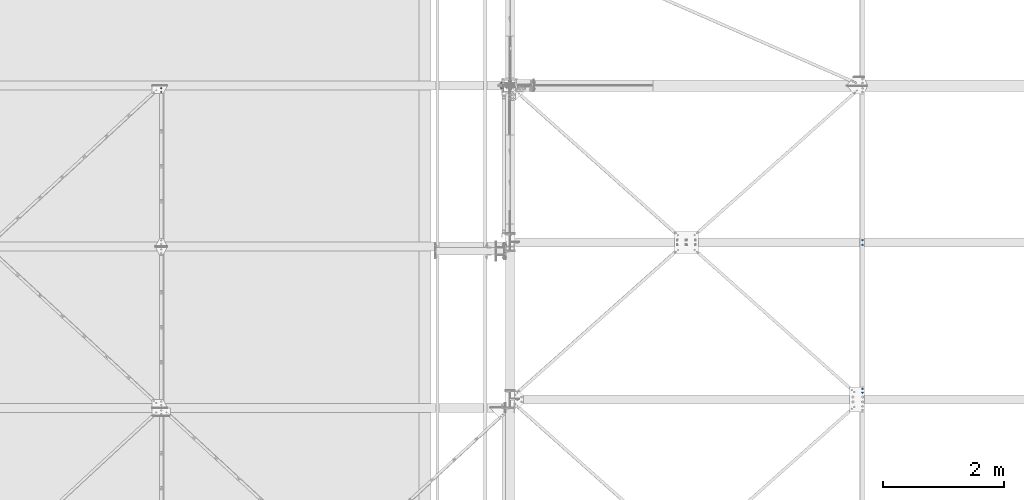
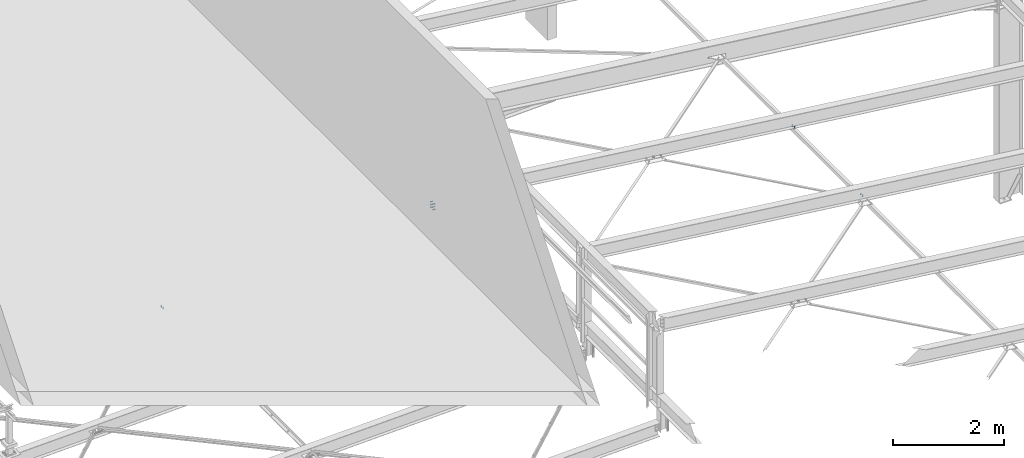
# One storey, part 201 of 3134: 5 mechanical fasteners, 5 elements without a shape of their own.
"""IFC2X3 building model written with IfcOpenShell, lengths in millimetres."""

from ifc_helpers import new_model, si_unit, frame, origin_with_axes, place, context, subcontext, project, spatial, faceted_brep, source, transform, mapped, material, type_object, element, aggregate, save


model = new_model("IFC2X3")

# Units and contexts
model_context = context("Model", 3, precision=1e-05, world=origin_with_axes())
body_context = subcontext(model_context, "Body", "Model", "MODEL_VIEW")
ifc_project = project(units=[si_unit("LENGTHUNIT", "METRE", prefix="MILLI"), si_unit("AREAUNIT", "SQUARE_METRE"), si_unit("VOLUMEUNIT", "CUBIC_METRE"), si_unit("MASSUNIT", "GRAM", prefix="KILO"), si_unit("TIMEUNIT", "SECOND"), si_unit("PLANEANGLEUNIT", "RADIAN"), si_unit("SOLIDANGLEUNIT", "STERADIAN"), si_unit("THERMODYNAMICTEMPERATUREUNIT", "DEGREE_CELSIUS"), si_unit("LUMINOUSINTENSITYUNIT", "LUMEN")], contexts=[model_context])

# Site, building, storey
site_placement = place(None, origin_with_axes())
site = spatial("IfcSite", under=ifc_project, at=site_placement, CompositionType="ELEMENT")
building_placement = place(site_placement, origin_with_axes())
building = spatial("IfcBuilding", under=site, at=building_placement, Name="Undefined", CompositionType="ELEMENT")
storey_placement = place(building_placement, origin_with_axes())
storey = spatial("IfcBuildingStorey", under=building, at=storey_placement, Name="Undefined", CompositionType="ELEMENT", Elevation=0.0)

# Assembly, mechanical fastener
assembly_1_placement = place(storey_placement, origin_with_axes())
assembly_1 = element("IfcElementAssembly", 1, at=assembly_1_placement, inside=storey, Name="PL8", AssemblyPlace="NOTDEFINED", PredefinedType="RIGID_FRAME")
ifc_material = material(Name="8.8")
mechanical_fastener_type = type_object("IfcMechanicalFastenerType", Name="Bolt assembly")
shared_shape_1 = source(origin_with_axes(), body_context, "Body", "Brep", [
    faceted_brep([(13.856406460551, -10.0, 0.0), (6.92820323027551, -10.0, 12.0), (-6.92820323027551, -10.0, 12.0), (-13.856406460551, -10.0, 1.69692038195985e-15), (-6.92820323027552, -10.0, -12.0), (6.9282032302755, -10.0, -12.0), (6.9282032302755, 0.0, -12.0), (-6.92820323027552, 0.0, -12.0), (-13.856406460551, 0.0, 1.69692038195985e-15), (-6.92820323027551, 0.0, 12.0), (6.92820323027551, 0.0, 12.0), (13.856406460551, 0.0, 0.0), (8.0, 0.0, 0.0), (6.92820323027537, 0.0, 4.00000000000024), (3.99999999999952, 0.0, 6.92820323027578), (-8.29068785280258e-13, 0.0, 8.0), (-4.00000000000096, 0.0, 6.92820323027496), (-6.9282032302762, 0.0, 3.99999999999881), (-8.0, 0.0, -1.65813757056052e-12), (-6.92820323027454, 0.0, -4.00000000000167), (-3.99999999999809, 0.0, -6.92820323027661), (2.47832457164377e-12, 0.0, -8.0), (4.00000000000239, 0.0, -6.92820323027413), (6.92820323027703, 0.0, -3.99999999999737), (6.92820323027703, 35.0000000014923, -3.99999999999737), (4.00000000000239, 35.0000000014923, -6.92820323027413), (2.47832457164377e-12, 35.0000000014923, -8.0), (-3.99999999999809, 35.0000000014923, -6.92820323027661), (-6.92820323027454, 35.0000000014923, -4.00000000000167), (-8.0, 35.0000000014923, -1.65813757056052e-12), (-6.9282032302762, 35.0000000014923, 3.99999999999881), (-4.00000000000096, 35.0000000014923, 6.92820323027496), (-8.29068785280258e-13, 35.0000000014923, 8.0), (3.99999999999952, 35.0000000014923, 6.92820323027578), (6.92820323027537, 35.0000000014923, 4.00000000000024), (8.0, 35.0000000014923, 0.0), (13.856406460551, 14.9990000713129, 0.0), (6.92820323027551, 14.9990000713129, 12.0), (-6.92820323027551, 14.9990000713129, 12.0), (-13.856406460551, 14.9990000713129, 1.69692038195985e-15), (-6.92820323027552, 14.9990000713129, -12.0), (6.9282032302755, 14.9990000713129, -12.0), (6.9282032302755, 27.9990000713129, -12.0), (-6.92820323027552, 27.9990000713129, -12.0), (-13.856406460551, 27.9990000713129, 1.69692038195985e-15), (-6.92820323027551, 27.9990000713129, 12.0), (6.92820323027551, 27.9990000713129, 12.0), (13.856406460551, 27.9990000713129, 0.0)], [[[0, 1, 2, 3, 4, 5]], [[6, 7, 8, 9, 10, 11]], [[0, 11, 10, 1]], [[1, 10, 9, 2]], [[2, 9, 8, 3]], [[3, 8, 7, 4]], [[4, 7, 6, 5]], [[5, 6, 11, 0]], [[12, 13, 14, 15, 16, 17, 18, 19, 20, 21, 22, 23]], [[24, 25, 26, 27, 28, 29, 30, 31, 32, 33, 34, 35]], [[12, 35, 34, 13]], [[13, 34, 33, 14]], [[14, 33, 32, 15]], [[15, 32, 31, 16]], [[16, 31, 30, 17]], [[17, 30, 29, 18]], [[18, 29, 28, 19]], [[19, 28, 27, 20]], [[20, 27, 26, 21]], [[21, 26, 25, 22]], [[22, 25, 24, 23]], [[23, 24, 35, 12]], [[36, 37, 38, 39, 40, 41]], [[42, 43, 44, 45, 46, 47]], [[36, 47, 46, 37]], [[37, 46, 45, 38]], [[38, 45, 44, 39]], [[39, 44, 43, 40]], [[40, 43, 42, 41]], [[41, 42, 47, 36]]]),
    faceted_brep([(9.0, 7.89900007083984, 0.0), (7.79422863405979, 7.89900007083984, 4.50000000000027), (4.49999999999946, 7.89900007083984, 7.79422863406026), (-9.3270238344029e-13, 7.89900007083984, 9.0), (-4.50000000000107, 7.89900007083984, 7.79422863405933), (-7.79422863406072, 7.89900007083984, 4.49999999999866), (-9.0, 7.89900007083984, -1.86540476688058e-12), (-7.79422863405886, 7.89900007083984, -4.50000000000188), (-4.49999999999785, 7.89900007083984, -7.79422863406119), (2.78811514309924e-12, 7.89900007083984, -9.0), (4.50000000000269, 7.89900007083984, -7.7942286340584), (7.79422863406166, 7.89900007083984, -4.49999999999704), (7.79422863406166, 14.9990000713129, -4.49999999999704), (4.50000000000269, 14.9990000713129, -7.7942286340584), (2.78811514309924e-12, 14.9990000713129, -9.0), (-4.49999999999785, 14.9990000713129, -7.79422863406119), (-7.79422863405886, 14.9990000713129, -4.50000000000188), (-9.0, 14.9990000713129, -1.86540476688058e-12), (-7.79422863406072, 14.9990000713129, 4.49999999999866), (-4.50000000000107, 14.9990000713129, 7.79422863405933), (-9.3270238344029e-13, 14.9990000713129, 9.0), (4.49999999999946, 14.9990000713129, 7.79422863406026), (7.79422863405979, 14.9990000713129, 4.50000000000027), (9.0, 14.9990000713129, 0.0), (9.0, 0.100000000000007, 0.0), (7.79422863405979, 0.100000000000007, 4.50000000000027), (4.49999999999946, 0.100000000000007, 7.79422863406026), (-9.3270238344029e-13, 0.100000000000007, 9.0), (-4.50000000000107, 0.100000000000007, 7.79422863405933), (-7.79422863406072, 0.100000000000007, 4.49999999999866), (-9.0, 0.100000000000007, -1.86540476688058e-12), (-7.79422863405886, 0.100000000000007, -4.50000000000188), (-4.49999999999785, 0.100000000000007, -7.79422863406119), (2.78811514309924e-12, 0.100000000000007, -9.0), (4.50000000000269, 0.100000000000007, -7.7942286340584), (7.79422863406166, 0.100000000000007, -4.49999999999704), (7.79422863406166, 8.1, -4.49999999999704), (4.50000000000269, 8.1, -7.7942286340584), (2.78811514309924e-12, 8.1, -9.0), (-4.49999999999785, 8.1, -7.79422863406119), (-7.79422863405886, 8.1, -4.50000000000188), (-9.0, 8.1, -1.86540476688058e-12), (-7.79422863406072, 8.1, 4.49999999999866), (-4.50000000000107, 8.1, 7.79422863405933), (-9.3270238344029e-13, 8.1, 9.0), (4.49999999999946, 8.1, 7.79422863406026), (7.79422863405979, 8.1, 4.50000000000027), (9.0, 8.1, 0.0)], [[[0, 1, 2, 3, 4, 5, 6, 7, 8, 9, 10, 11]], [[12, 13, 14, 15, 16, 17, 18, 19, 20, 21, 22, 23]], [[0, 23, 22, 1]], [[1, 22, 21, 2]], [[2, 21, 20, 3]], [[3, 20, 19, 4]], [[4, 19, 18, 5]], [[5, 18, 17, 6]], [[6, 17, 16, 7]], [[7, 16, 15, 8]], [[8, 15, 14, 9]], [[9, 14, 13, 10]], [[10, 13, 12, 11]], [[11, 12, 23, 0]], [[24, 25, 26, 27, 28, 29, 30, 31, 32, 33, 34, 35]], [[36, 37, 38, 39, 40, 41, 42, 43, 44, 45, 46, 47]], [[24, 47, 46, 25]], [[25, 46, 45, 26]], [[26, 45, 44, 27]], [[27, 44, 43, 28]], [[28, 43, 42, 29]], [[29, 42, 41, 30]], [[30, 41, 40, 31]], [[31, 40, 39, 32]], [[32, 39, 38, 33]], [[33, 38, 37, 34]], [[34, 37, 36, 35]], [[35, 36, 47, 24]]]),
])
mechanical_fastener_1_placement = place(assembly_1_placement, frame((26687.9849612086, 35225.0, 4806.73358922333), z_axis=(0.992623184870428, 0.0, -0.121240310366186), x_axis=(0.0, -1.0, 0.0)))
mechanical_fastener_1 = element("IfcMechanicalFastener", 2, at=mechanical_fastener_1_placement, type_object=mechanical_fastener_type, material=ifc_material, Name="Bolt assembly", NominalDiameter=16.0, NominalLength=35.0, context=body_context, shape_type="MappedRepresentation", body=[
    mapped(shared_shape_1, transform((0.0, 0.0, 0.0))),
    mapped(shared_shape_1, transform((59.9999999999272, 0.0, 5.40239852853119e-10))),
])
aggregate(assembly_1, [mechanical_fastener_1])

assembly_2_placement = place(storey_placement, origin_with_axes())
assembly_2 = element("IfcElementAssembly", 3, at=assembly_2_placement, inside=storey, AssemblyPlace="NOTDEFINED", PredefinedType="RIGID_FRAME")
shared_shape_2 = source(origin_with_axes(), body_context, "Body", "Brep", [
    faceted_brep([(13.856406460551, -19.199990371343, 0.0), (6.92820323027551, -19.199990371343, 12.0), (-6.92820323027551, -19.199990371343, 12.0), (-13.856406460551, -19.199990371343, 1.69692038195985e-15), (-6.92820323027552, -19.199990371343, -12.0), (6.9282032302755, -19.199990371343, -12.0), (6.9282032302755, -9.19999037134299, -12.0), (-6.92820323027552, -9.19999037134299, -12.0), (-13.856406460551, -9.19999037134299, 1.69692038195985e-15), (-6.92820323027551, -9.19999037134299, 12.0), (6.92820323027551, -9.19999037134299, 12.0), (13.856406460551, -9.19999037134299, 0.0), (8.0, -9.19999037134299, 0.0), (6.92820323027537, -9.19999037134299, 4.00000000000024), (3.99999999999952, -9.19999037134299, 6.92820323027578), (-8.29068785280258e-13, -9.19999037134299, 8.0), (-4.00000000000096, -9.19999037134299, 6.92820323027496), (-6.9282032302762, -9.19999037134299, 3.99999999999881), (-8.0, -9.19999037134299, -1.65813757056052e-12), (-6.92820323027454, -9.19999037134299, -4.00000000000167), (-3.99999999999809, -9.19999037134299, -6.92820323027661), (2.47832457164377e-12, -9.19999037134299, -8.0), (4.00000000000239, -9.19999037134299, -6.92820323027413), (6.92820323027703, -9.19999037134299, -3.99999999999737), (6.92820323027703, 35.8000002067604, -3.99999999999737), (4.00000000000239, 35.8000002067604, -6.92820323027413), (2.47832457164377e-12, 35.8000002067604, -8.0), (-3.99999999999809, 35.8000002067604, -6.92820323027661), (-6.92820323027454, 35.8000002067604, -4.00000000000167), (-8.0, 35.8000002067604, -1.65813757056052e-12), (-6.9282032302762, 35.8000002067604, 3.99999999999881), (-4.00000000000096, 35.8000002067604, 6.92820323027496), (-8.29068785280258e-13, 35.8000002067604, 8.0), (3.99999999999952, 35.8000002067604, 6.92820323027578), (6.92820323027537, 35.8000002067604, 4.00000000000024), (8.0, 35.8000002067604, 0.0), (13.856406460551, 14.9990000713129, 0.0), (6.92820323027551, 14.9990000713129, 12.0), (-6.92820323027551, 14.9990000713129, 12.0), (-13.856406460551, 14.9990000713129, 1.69692038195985e-15), (-6.92820323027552, 14.9990000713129, -12.0), (6.9282032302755, 14.9990000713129, -12.0), (6.9282032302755, 27.9990000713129, -12.0), (-6.92820323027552, 27.9990000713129, -12.0), (-13.856406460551, 27.9990000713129, 1.69692038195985e-15), (-6.92820323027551, 27.9990000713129, 12.0), (6.92820323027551, 27.9990000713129, 12.0), (13.856406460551, 27.9990000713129, 0.0)], [[[0, 1, 2, 3, 4, 5]], [[6, 7, 8, 9, 10, 11]], [[0, 11, 10, 1]], [[1, 10, 9, 2]], [[2, 9, 8, 3]], [[3, 8, 7, 4]], [[4, 7, 6, 5]], [[5, 6, 11, 0]], [[12, 13, 14, 15, 16, 17, 18, 19, 20, 21, 22, 23]], [[24, 25, 26, 27, 28, 29, 30, 31, 32, 33, 34, 35]], [[12, 35, 34, 13]], [[13, 34, 33, 14]], [[14, 33, 32, 15]], [[15, 32, 31, 16]], [[16, 31, 30, 17]], [[17, 30, 29, 18]], [[18, 29, 28, 19]], [[19, 28, 27, 20]], [[20, 27, 26, 21]], [[21, 26, 25, 22]], [[22, 25, 24, 23]], [[23, 24, 35, 12]], [[36, 37, 38, 39, 40, 41]], [[42, 43, 44, 45, 46, 47]], [[36, 47, 46, 37]], [[37, 46, 45, 38]], [[38, 45, 44, 39]], [[39, 44, 43, 40]], [[40, 43, 42, 41]], [[41, 42, 47, 36]]]),
    faceted_brep([(9.0, -9.09999037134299, 0.0), (7.79422863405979, -9.09999037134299, 4.50000000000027), (4.49999999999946, -9.09999037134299, 7.79422863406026), (-9.3270238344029e-13, -9.09999037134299, 9.0), (-4.50000000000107, -9.09999037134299, 7.79422863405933), (-7.79422863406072, -9.09999037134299, 4.49999999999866), (-9.0, -9.09999037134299, -1.86540476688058e-12), (-7.79422863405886, -9.09999037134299, -4.50000000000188), (-4.49999999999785, -9.09999037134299, -7.79422863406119), (2.78811514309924e-12, -9.09999037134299, -9.0), (4.50000000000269, -9.09999037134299, -7.7942286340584), (7.79422863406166, -9.09999037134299, -4.49999999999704), (7.79422863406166, 0.100000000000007, -4.49999999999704), (4.50000000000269, 0.100000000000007, -7.7942286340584), (2.78811514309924e-12, 0.100000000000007, -9.0), (-4.49999999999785, 0.100000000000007, -7.79422863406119), (-7.79422863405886, 0.100000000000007, -4.50000000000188), (-9.0, 0.100000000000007, -1.86540476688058e-12), (-7.79422863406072, 0.100000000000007, 4.49999999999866), (-4.50000000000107, 0.100000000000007, 7.79422863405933), (-9.3270238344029e-13, 0.100000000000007, 9.0), (4.49999999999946, 0.100000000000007, 7.79422863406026), (7.79422863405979, 0.100000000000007, 4.50000000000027), (9.0, 0.100000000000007, 0.0), (9.0, 7.89900007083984, 0.0), (7.79422863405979, 7.89900007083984, 4.50000000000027), (4.49999999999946, 7.89900007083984, 7.79422863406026), (-9.3270238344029e-13, 7.89900007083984, 9.0), (-4.50000000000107, 7.89900007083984, 7.79422863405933), (-7.79422863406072, 7.89900007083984, 4.49999999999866), (-9.0, 7.89900007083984, -1.86540476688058e-12), (-7.79422863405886, 7.89900007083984, -4.50000000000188), (-4.49999999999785, 7.89900007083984, -7.79422863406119), (2.78811514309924e-12, 7.89900007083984, -9.0), (4.50000000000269, 7.89900007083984, -7.7942286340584), (7.79422863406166, 7.89900007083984, -4.49999999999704), (7.79422863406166, 14.9990000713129, -4.49999999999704), (4.50000000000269, 14.9990000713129, -7.7942286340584), (2.78811514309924e-12, 14.9990000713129, -9.0), (-4.49999999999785, 14.9990000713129, -7.79422863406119), (-7.79422863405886, 14.9990000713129, -4.50000000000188), (-9.0, 14.9990000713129, -1.86540476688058e-12), (-7.79422863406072, 14.9990000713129, 4.49999999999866), (-4.50000000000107, 14.9990000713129, 7.79422863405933), (-9.3270238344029e-13, 14.9990000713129, 9.0), (4.49999999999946, 14.9990000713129, 7.79422863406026), (7.79422863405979, 14.9990000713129, 4.50000000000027), (9.0, 14.9990000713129, 0.0)], [[[0, 1, 2, 3, 4, 5, 6, 7, 8, 9, 10, 11]], [[12, 13, 14, 15, 16, 17, 18, 19, 20, 21, 22, 23]], [[0, 23, 22, 1]], [[1, 22, 21, 2]], [[2, 21, 20, 3]], [[3, 20, 19, 4]], [[4, 19, 18, 5]], [[5, 18, 17, 6]], [[6, 17, 16, 7]], [[7, 16, 15, 8]], [[8, 15, 14, 9]], [[9, 14, 13, 10]], [[10, 13, 12, 11]], [[11, 12, 23, 0]], [[24, 25, 26, 27, 28, 29, 30, 31, 32, 33, 34, 35]], [[36, 37, 38, 39, 40, 41, 42, 43, 44, 45, 46, 47]], [[24, 47, 46, 25]], [[25, 46, 45, 26]], [[26, 45, 44, 27]], [[27, 44, 43, 28]], [[28, 43, 42, 29]], [[29, 42, 41, 30]], [[30, 41, 40, 31]], [[31, 40, 39, 32]], [[32, 39, 38, 33]], [[33, 38, 37, 34]], [[34, 37, 36, 35]], [[35, 36, 47, 24]]]),
])
mechanical_fastener_2_placement = place(assembly_2_placement, frame((26687.9849612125, 37612.0, 4806.73358922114), z_axis=(-0.992623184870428, 0.0, 0.121240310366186), x_axis=(0.0, 1.0, 0.0)))
mechanical_fastener_2 = element("IfcMechanicalFastener", 4, at=mechanical_fastener_2_placement, type_object=mechanical_fastener_type, material=ifc_material, Name="Bolt assembly", NominalDiameter=16.0, NominalLength=45.0, context=body_context, shape_type="MappedRepresentation", body=[
    mapped(shared_shape_2, transform((0.0, 0.0, 0.0))),
    mapped(shared_shape_2, transform((76.0, 0.0, 0.0))),
])
aggregate(assembly_2, [mechanical_fastener_2])

assembly_3_placement = place(storey_placement, origin_with_axes())
assembly_3 = element("IfcElementAssembly", 5, at=assembly_3_placement, inside=storey, Name="300", AssemblyPlace="NOTDEFINED", PredefinedType="RIGID_FRAME")
shared_shape_3 = source(origin_with_axes(), body_context, "Body", "Brep", [
    faceted_brep([(13.856406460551, -21.0000017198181, 0.0), (6.92820323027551, -21.0000017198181, 12.0), (-6.92820323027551, -21.0000017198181, 12.0), (-13.856406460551, -21.0000017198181, 1.69692038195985e-15), (-6.92820323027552, -21.0000017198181, -12.0), (6.9282032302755, -21.0000017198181, -12.0), (6.9282032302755, -11.0000017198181, -12.0), (-6.92820323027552, -11.0000017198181, -12.0), (-13.856406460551, -11.0000017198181, 1.69692038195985e-15), (-6.92820323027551, -11.0000017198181, 12.0), (6.92820323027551, -11.0000017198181, 12.0), (13.856406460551, -11.0000017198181, 0.0), (8.0, -11.0000017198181, 0.0), (6.92820323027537, -11.0000017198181, 4.00000000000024), (3.99999999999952, -11.0000017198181, 6.92820323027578), (-8.29068785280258e-13, -11.0000017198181, 8.0), (-4.00000000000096, -11.0000017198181, 6.92820323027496), (-6.9282032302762, -11.0000017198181, 3.99999999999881), (-8.0, -11.0000017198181, -1.65813757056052e-12), (-6.92820323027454, -11.0000017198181, -4.00000000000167), (-3.99999999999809, -11.0000017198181, -6.92820323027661), (2.47832457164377e-12, -11.0000017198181, -8.0), (4.00000000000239, -11.0000017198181, -6.92820323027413), (6.92820323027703, -11.0000017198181, -3.99999999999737), (6.92820323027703, 29.0, -3.99999999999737), (4.00000000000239, 29.0, -6.92820323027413), (2.47832457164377e-12, 29.0, -8.0), (-3.99999999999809, 29.0, -6.92820323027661), (-6.92820323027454, 29.0, -4.00000000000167), (-8.0, 29.0, -1.65813757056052e-12), (-6.9282032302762, 29.0, 3.99999999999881), (-4.00000000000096, 29.0, 6.92820323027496), (-8.29068785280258e-13, 29.0, 8.0), (3.99999999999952, 29.0, 6.92820323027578), (6.92820323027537, 29.0, 4.00000000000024), (8.0, 29.0, 0.0), (13.856406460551, 10.9999982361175, 0.0), (6.92820323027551, 10.9999982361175, 12.0), (-6.92820323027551, 10.9999982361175, 12.0), (-13.856406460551, 10.9999982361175, 1.69692038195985e-15), (-6.92820323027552, 10.9999982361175, -12.0), (6.9282032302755, 10.9999982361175, -12.0), (6.9282032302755, 23.9999999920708, -12.0), (-6.92820323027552, 23.9999999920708, -12.0), (-13.856406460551, 23.9999999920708, 1.69692038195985e-15), (-6.92820323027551, 23.9999999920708, 12.0), (6.92820323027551, 23.9999999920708, 12.0), (13.856406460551, 23.9999999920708, 0.0)], [[[0, 1, 2, 3, 4, 5]], [[6, 7, 8, 9, 10, 11]], [[0, 11, 10, 1]], [[1, 10, 9, 2]], [[2, 9, 8, 3]], [[3, 8, 7, 4]], [[4, 7, 6, 5]], [[5, 6, 11, 0]], [[12, 13, 14, 15, 16, 17, 18, 19, 20, 21, 22, 23]], [[24, 25, 26, 27, 28, 29, 30, 31, 32, 33, 34, 35]], [[12, 35, 34, 13]], [[13, 34, 33, 14]], [[14, 33, 32, 15]], [[15, 32, 31, 16]], [[16, 31, 30, 17]], [[17, 30, 29, 18]], [[18, 29, 28, 19]], [[19, 28, 27, 20]], [[20, 27, 26, 21]], [[21, 26, 25, 22]], [[22, 25, 24, 23]], [[23, 24, 35, 12]], [[36, 37, 38, 39, 40, 41]], [[42, 43, 44, 45, 46, 47]], [[36, 47, 46, 37]], [[37, 46, 45, 38]], [[38, 45, 44, 39]], [[39, 44, 43, 40]], [[40, 43, 42, 41]], [[41, 42, 47, 36]]]),
    faceted_brep([(9.0, -10.9000017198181, 0.0), (7.79422863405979, -10.9000017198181, 4.50000000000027), (4.49999999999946, -10.9000017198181, 7.79422863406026), (-9.3270238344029e-13, -10.9000017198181, 9.0), (-4.50000000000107, -10.9000017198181, 7.79422863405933), (-7.79422863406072, -10.9000017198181, 4.49999999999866), (-9.0, -10.9000017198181, -1.86540476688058e-12), (-7.79422863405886, -10.9000017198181, -4.50000000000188), (-4.49999999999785, -10.9000017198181, -7.79422863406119), (2.78811514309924e-12, -10.9000017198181, -9.0), (4.50000000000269, -10.9000017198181, -7.7942286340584), (7.79422863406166, -10.9000017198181, -4.49999999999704), (7.79422863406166, -3.9, -4.49999999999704), (4.50000000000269, -3.9, -7.7942286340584), (2.78811514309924e-12, -3.9, -9.0), (-4.49999999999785, -3.9, -7.79422863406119), (-7.79422863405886, -3.9, -4.50000000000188), (-9.0, -3.9, -1.86540476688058e-12), (-7.79422863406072, -3.9, 4.49999999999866), (-4.50000000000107, -3.9, 7.79422863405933), (-9.3270238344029e-13, -3.9, 9.0), (4.49999999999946, -3.9, 7.79422863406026), (7.79422863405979, -3.9, 4.50000000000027), (9.0, -3.9, 0.0), (9.0, -3.99999624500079, 0.0), (7.79422863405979, -3.99999624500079, 4.50000000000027), (4.49999999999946, -3.99999624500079, 7.79422863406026), (-9.3270238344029e-13, -3.99999624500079, 9.0), (-4.50000000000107, -3.99999624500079, 7.79422863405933), (-7.79422863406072, -3.99999624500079, 4.49999999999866), (-9.0, -3.99999624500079, -1.86540476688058e-12), (-7.79422863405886, -3.99999624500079, -4.50000000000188), (-4.49999999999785, -3.99999624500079, -7.79422863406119), (2.78811514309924e-12, -3.99999624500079, -9.0), (4.50000000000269, -3.99999624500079, -7.7942286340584), (7.79422863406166, -3.99999624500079, -4.49999999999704), (7.79422863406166, 4.00000375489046, -4.49999999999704), (4.50000000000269, 4.00000375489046, -7.7942286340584), (2.78811514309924e-12, 4.00000375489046, -9.0), (-4.49999999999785, 4.00000375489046, -7.79422863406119), (-7.79422863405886, 4.00000375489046, -4.50000000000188), (-9.0, 4.00000375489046, -1.86540476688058e-12), (-7.79422863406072, 4.00000375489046, 4.49999999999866), (-4.50000000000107, 4.00000375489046, 7.79422863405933), (-9.3270238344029e-13, 4.00000375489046, 9.0), (4.49999999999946, 4.00000375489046, 7.79422863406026), (7.79422863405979, 4.00000375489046, 4.50000000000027), (9.0, 4.00000375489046, 0.0), (9.0, 3.9, 0.0), (7.79422863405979, 3.9, 4.50000000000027), (4.49999999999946, 3.9, 7.79422863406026), (-9.3270238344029e-13, 3.9, 9.0), (-4.50000000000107, 3.9, 7.79422863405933), (-7.79422863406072, 3.9, 4.49999999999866), (-9.0, 3.9, -1.86540476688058e-12), (-7.79422863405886, 3.9, -4.50000000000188), (-4.49999999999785, 3.9, -7.79422863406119), (2.78811514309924e-12, 3.9, -9.0), (4.50000000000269, 3.9, -7.7942286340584), (7.79422863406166, 3.9, -4.49999999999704), (7.79422863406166, 10.9999982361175, -4.49999999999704), (4.50000000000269, 10.9999982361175, -7.7942286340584), (2.78811514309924e-12, 10.9999982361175, -9.0), (-4.49999999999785, 10.9999982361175, -7.79422863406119), (-7.79422863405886, 10.9999982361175, -4.50000000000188), (-9.0, 10.9999982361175, -1.86540476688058e-12), (-7.79422863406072, 10.9999982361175, 4.49999999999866), (-4.50000000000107, 10.9999982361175, 7.79422863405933), (-9.3270238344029e-13, 10.9999982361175, 9.0), (4.49999999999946, 10.9999982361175, 7.79422863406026), (7.79422863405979, 10.9999982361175, 4.50000000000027), (9.0, 10.9999982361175, 0.0)], [[[0, 1, 2, 3, 4, 5, 6, 7, 8, 9, 10, 11]], [[12, 13, 14, 15, 16, 17, 18, 19, 20, 21, 22, 23]], [[0, 23, 22, 1]], [[1, 22, 21, 2]], [[2, 21, 20, 3]], [[3, 20, 19, 4]], [[4, 19, 18, 5]], [[5, 18, 17, 6]], [[6, 17, 16, 7]], [[7, 16, 15, 8]], [[8, 15, 14, 9]], [[9, 14, 13, 10]], [[10, 13, 12, 11]], [[11, 12, 23, 0]], [[24, 25, 26, 27, 28, 29, 30, 31, 32, 33, 34, 35]], [[36, 37, 38, 39, 40, 41, 42, 43, 44, 45, 46, 47]], [[24, 47, 46, 25]], [[25, 46, 45, 26]], [[26, 45, 44, 27]], [[27, 44, 43, 28]], [[28, 43, 42, 29]], [[29, 42, 41, 30]], [[30, 41, 40, 31]], [[31, 40, 39, 32]], [[32, 39, 38, 33]], [[33, 38, 37, 34]], [[34, 37, 36, 35]], [[35, 36, 47, 24]], [[48, 49, 50, 51, 52, 53, 54, 55, 56, 57, 58, 59]], [[60, 61, 62, 63, 64, 65, 66, 67, 68, 69, 70, 71]], [[48, 71, 70, 49]], [[49, 70, 69, 50]], [[50, 69, 68, 51]], [[51, 68, 67, 52]], [[52, 67, 66, 53]], [[53, 66, 65, 54]], [[54, 65, 64, 55]], [[55, 64, 63, 56]], [[56, 63, 62, 57]], [[57, 62, 61, 58]], [[58, 61, 60, 59]], [[59, 60, 71, 48]]]),
])
mechanical_fastener_3_placement = place(assembly_3_placement, frame((15072.5010771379, 40204.999366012, 3386.35293761), z_axis=(0.999519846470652, 0.0, 0.0309851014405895), x_axis=(0.0, -1.0, 0.0)))
mechanical_fastener_3 = element("IfcMechanicalFastener", 6, at=mechanical_fastener_3_placement, type_object=mechanical_fastener_type, material=ifc_material, Name="Bolt assembly", NominalDiameter=16.0, NominalLength=40.0, context=body_context, shape_type="MappedRepresentation", body=[
    mapped(shared_shape_3, transform((0.0, 0.0, 0.0))),
    mapped(shared_shape_3, transform((59.9999999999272, 0.0, 5.40239852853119e-10))),
])
aggregate(assembly_3, [mechanical_fastener_3])

assembly_4_placement = place(storey_placement, origin_with_axes())
assembly_4 = element("IfcElementAssembly", 7, at=assembly_4_placement, inside=storey, AssemblyPlace="NOTDEFINED", PredefinedType="RIGID_FRAME")
shared_shape_4 = source(origin_with_axes(), body_context, "Body", "Brep", [
    faceted_brep([(13.856406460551, -26.001656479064, 0.0), (6.92820323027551, -26.001656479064, 12.0), (-6.92820323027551, -26.001656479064, 12.0), (-13.856406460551, -26.001656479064, 1.69692038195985e-15), (-6.92820323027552, -26.001656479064, -12.0), (6.9282032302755, -26.001656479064, -12.0), (6.9282032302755, -16.001656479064, -12.0), (-6.92820323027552, -16.001656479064, -12.0), (-13.856406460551, -16.001656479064, 1.69692038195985e-15), (-6.92820323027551, -16.001656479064, 12.0), (6.92820323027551, -16.001656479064, 12.0), (13.856406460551, -16.001656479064, 0.0), (8.0, -16.001656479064, 0.0), (6.92820323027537, -16.001656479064, 4.00000000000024), (3.99999999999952, -16.001656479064, 6.92820323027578), (-8.29068785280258e-13, -16.001656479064, 8.0), (-4.00000000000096, -16.001656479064, 6.92820323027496), (-6.9282032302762, -16.001656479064, 3.99999999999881), (-8.0, -16.001656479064, -1.65813757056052e-12), (-6.92820323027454, -16.001656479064, -4.00000000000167), (-3.99999999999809, -16.001656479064, -6.92820323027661), (2.47832457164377e-12, -16.001656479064, -8.0), (4.00000000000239, -16.001656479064, -6.92820323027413), (6.92820323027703, -16.001656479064, -3.99999999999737), (6.92820323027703, 23.998343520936, -3.99999999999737), (4.00000000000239, 23.998343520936, -6.92820323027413), (2.47832457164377e-12, 23.998343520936, -8.0), (-3.99999999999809, 23.998343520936, -6.92820323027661), (-6.92820323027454, 23.998343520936, -4.00000000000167), (-8.0, 23.998343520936, -1.65813757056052e-12), (-6.9282032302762, 23.998343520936, 3.99999999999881), (-4.00000000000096, 23.998343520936, 6.92820323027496), (-8.29068785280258e-13, 23.998343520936, 8.0), (3.99999999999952, 23.998343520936, 6.92820323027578), (6.92820323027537, 23.998343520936, 4.00000000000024), (8.0, 23.998343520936, 0.0), (13.856406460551, 7.0, 0.0), (6.92820323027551, 7.0, 12.0), (-6.92820323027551, 7.0, 12.0), (-13.856406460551, 7.0, 1.69692038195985e-15), (-6.92820323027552, 7.0, -12.0), (6.9282032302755, 7.0, -12.0), (6.9282032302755, 20.0, -12.0), (-6.92820323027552, 20.0, -12.0), (-13.856406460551, 20.0, 1.69692038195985e-15), (-6.92820323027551, 20.0, 12.0), (6.92820323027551, 20.0, 12.0), (13.856406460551, 20.0, 0.0)], [[[0, 1, 2, 3, 4, 5]], [[6, 7, 8, 9, 10, 11]], [[0, 11, 10, 1]], [[1, 10, 9, 2]], [[2, 9, 8, 3]], [[3, 8, 7, 4]], [[4, 7, 6, 5]], [[5, 6, 11, 0]], [[12, 13, 14, 15, 16, 17, 18, 19, 20, 21, 22, 23]], [[24, 25, 26, 27, 28, 29, 30, 31, 32, 33, 34, 35]], [[12, 35, 34, 13]], [[13, 34, 33, 14]], [[14, 33, 32, 15]], [[15, 32, 31, 16]], [[16, 31, 30, 17]], [[17, 30, 29, 18]], [[18, 29, 28, 19]], [[19, 28, 27, 20]], [[20, 27, 26, 21]], [[21, 26, 25, 22]], [[22, 25, 24, 23]], [[23, 24, 35, 12]], [[36, 37, 38, 39, 40, 41]], [[42, 43, 44, 45, 46, 47]], [[36, 47, 46, 37]], [[37, 46, 45, 38]], [[38, 45, 44, 39]], [[39, 44, 43, 40]], [[40, 43, 42, 41]], [[41, 42, 47, 36]]]),
    faceted_brep([(9.0, -15.901656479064, 0.0), (7.79422863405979, -15.901656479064, 4.50000000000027), (4.49999999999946, -15.901656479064, 7.79422863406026), (-9.3270238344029e-13, -15.901656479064, 9.0), (-4.50000000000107, -15.901656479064, 7.79422863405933), (-7.79422863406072, -15.901656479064, 4.49999999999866), (-9.0, -15.901656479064, -1.86540476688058e-12), (-7.79422863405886, -15.901656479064, -4.50000000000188), (-4.49999999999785, -15.901656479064, -7.79422863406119), (2.78811514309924e-12, -15.901656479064, -9.0), (4.50000000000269, -15.901656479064, -7.7942286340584), (7.79422863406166, -15.901656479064, -4.49999999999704), (7.79422863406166, 0.0983435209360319, -4.49999999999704), (4.50000000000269, 0.0983435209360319, -7.7942286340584), (2.78811514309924e-12, 0.0983435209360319, -9.0), (-4.49999999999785, 0.0983435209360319, -7.79422863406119), (-7.79422863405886, 0.0983435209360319, -4.50000000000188), (-9.0, 0.0983435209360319, -1.86540476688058e-12), (-7.79422863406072, 0.0983435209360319, 4.49999999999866), (-4.50000000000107, 0.0983435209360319, 7.79422863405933), (-9.3270238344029e-13, 0.0983435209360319, 9.0), (4.49999999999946, 0.0983435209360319, 7.79422863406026), (7.79422863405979, 0.0983435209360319, 4.50000000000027), (9.0, 0.0983435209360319, 0.0), (9.0, -0.1, 0.0), (7.79422863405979, -0.1, 4.50000000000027), (4.49999999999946, -0.1, 7.79422863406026), (-9.3270238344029e-13, -0.1, 9.0), (-4.50000000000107, -0.1, 7.79422863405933), (-7.79422863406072, -0.1, 4.49999999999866), (-9.0, -0.1, -1.86540476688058e-12), (-7.79422863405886, -0.1, -4.50000000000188), (-4.49999999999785, -0.1, -7.79422863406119), (2.78811514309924e-12, -0.1, -9.0), (4.50000000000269, -0.1, -7.7942286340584), (7.79422863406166, -0.1, -4.49999999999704), (7.79422863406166, 7.0, -4.49999999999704), (4.50000000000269, 7.0, -7.7942286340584), (2.78811514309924e-12, 7.0, -9.0), (-4.49999999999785, 7.0, -7.79422863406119), (-7.79422863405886, 7.0, -4.50000000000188), (-9.0, 7.0, -1.86540476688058e-12), (-7.79422863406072, 7.0, 4.49999999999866), (-4.50000000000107, 7.0, 7.79422863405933), (-9.3270238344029e-13, 7.0, 9.0), (4.49999999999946, 7.0, 7.79422863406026), (7.79422863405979, 7.0, 4.50000000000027), (9.0, 7.0, 0.0)], [[[0, 1, 2, 3, 4, 5, 6, 7, 8, 9, 10, 11]], [[12, 13, 14, 15, 16, 17, 18, 19, 20, 21, 22, 23]], [[0, 23, 22, 1]], [[1, 22, 21, 2]], [[2, 21, 20, 3]], [[3, 20, 19, 4]], [[4, 19, 18, 5]], [[5, 18, 17, 6]], [[6, 17, 16, 7]], [[7, 16, 15, 8]], [[8, 15, 14, 9]], [[9, 14, 13, 10]], [[10, 13, 12, 11]], [[11, 12, 23, 0]], [[24, 25, 26, 27, 28, 29, 30, 31, 32, 33, 34, 35]], [[36, 37, 38, 39, 40, 41, 42, 43, 44, 45, 46, 47]], [[24, 47, 46, 25]], [[25, 46, 45, 26]], [[26, 45, 44, 27]], [[27, 44, 43, 28]], [[28, 43, 42, 29]], [[29, 42, 41, 30]], [[30, 41, 40, 31]], [[31, 40, 39, 32]], [[32, 39, 38, 33]], [[33, 38, 37, 34]], [[34, 37, 36, 35]], [[35, 36, 47, 24]]]),
])
mechanical_fastener_4_placement = place(assembly_4_placement, frame((20714.9983435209, 40293.04, 3647.0036735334), z_axis=(0.0, 1.0, 0.0), x_axis=(0.0, 0.0, -1.0)))
mechanical_fastener_4 = element("IfcMechanicalFastener", 8, at=mechanical_fastener_4_placement, type_object=mechanical_fastener_type, material=ifc_material, Name="Bolt assembly", NominalDiameter=16.0, NominalLength=40.0, context=body_context, shape_type="MappedRepresentation", body=[
    mapped(shared_shape_4, transform((0.0, 0.0, 0.0))),
    mapped(shared_shape_4, transform((59.9999999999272, 0.0, 5.40239852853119e-10))),
    mapped(shared_shape_4, transform((120.0, 0.0, 0.0))),
])
aggregate(assembly_4, [mechanical_fastener_4])

assembly_5_placement = place(storey_placement, origin_with_axes())
assembly_5 = element("IfcElementAssembly", 9, at=assembly_5_placement, inside=storey, AssemblyPlace="NOTDEFINED", PredefinedType="RIGID_FRAME")
mechanical_fastener_5_placement = place(assembly_5_placement, frame((20714.9983435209, 40206.96, 3647.0036735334), z_axis=(0.0, 1.0, 0.0), x_axis=(0.0, 0.0, -1.0)))
mechanical_fastener_5 = element("IfcMechanicalFastener", 10, at=mechanical_fastener_5_placement, type_object=mechanical_fastener_type, material=ifc_material, Name="Bolt assembly", NominalDiameter=16.0, NominalLength=40.0, context=body_context, shape_type="MappedRepresentation", body=[
    mapped(shared_shape_4, transform((0.0, 0.0, 0.0))),
    mapped(shared_shape_4, transform((59.9999999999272, 0.0, 5.40239852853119e-10))),
    mapped(shared_shape_4, transform((120.0, 0.0, 0.0))),
])
aggregate(assembly_5, [mechanical_fastener_5])

save(model, "model.ifc")
